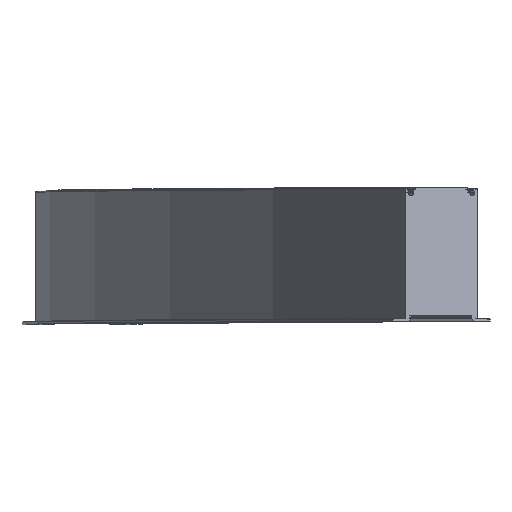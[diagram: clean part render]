
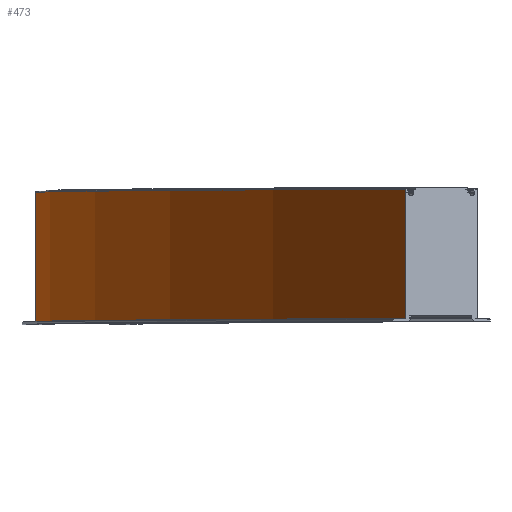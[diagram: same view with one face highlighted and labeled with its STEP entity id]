
A CAD part, top view. The second image highlights one B-rep face of the part: STEP entity #473.
In plain terms, the highlighted cylindrical face has radius 2923.5 mm (diameter 5847 mm), a partial arc.
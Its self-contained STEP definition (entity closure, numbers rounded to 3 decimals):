
#110 = CARTESIAN_POINT ( 'NONE',  ( -23.5, 1.8, 0. ) ) ;
#162 = AXIS2_PLACEMENT_3D ( 'NONE', #408, #850, #1435 ) ;
#183 = VERTEX_POINT ( 'NONE', #893 ) ;
#190 = VERTEX_POINT ( 'NONE', #879 ) ;
#247 = DIRECTION ( 'NONE',  ( 0., -1., 0. ) ) ;
#263 = CARTESIAN_POINT ( 'NONE',  ( 199.038, 1.8, 1118.775 ) ) ;
#408 = CARTESIAN_POINT ( 'NONE',  ( 2900., 1.8, 0. ) ) ;
#412 = DIRECTION ( 'NONE',  ( 0., -1., 0. ) ) ;
#473 = ADVANCED_FACE ( 'NONE', ( #540 ), #584, .T. ) ;
#532 = CARTESIAN_POINT ( 'NONE',  ( 2900., 0., 0. ) ) ;
#540 = FACE_OUTER_BOUND ( 'NONE', #1071, .T. ) ;
#560 = AXIS2_PLACEMENT_3D ( 'NONE', #1549, #1709, #1589 ) ;
#577 = ORIENTED_EDGE ( 'NONE', *, *, #954, .T. ) ;
#584 = CYLINDRICAL_SURFACE ( 'NONE', #744, 2923.5 ) ;
#701 = ORIENTED_EDGE ( 'NONE', *, *, #1160, .F. ) ;
#715 = VERTEX_POINT ( 'NONE', #1456 ) ;
#744 = AXIS2_PLACEMENT_3D ( 'NONE', #532, #1407, #1878 ) ;
#747 = CIRCLE ( 'NONE', #162, 2923.5 ) ;
#847 = VECTOR ( 'NONE', #412, 1000. ) ;
#850 = DIRECTION ( 'NONE',  ( 0., 1., 0. ) ) ;
#879 = CARTESIAN_POINT ( 'NONE',  ( 199.038, 1.8, 1118.775 ) ) ;
#893 = CARTESIAN_POINT ( 'NONE',  ( -23.5, 1.8, 0. ) ) ;
#906 = CIRCLE ( 'NONE', #560, 2923.5 ) ;
#954 = EDGE_CURVE ( 'NONE', #183, #190, #747, .T. ) ;
#955 = ORIENTED_EDGE ( 'NONE', *, *, #1493, .F. ) ;
#956 = LINE ( 'NONE', #110, #1235 ) ;
#958 = CARTESIAN_POINT ( 'NONE',  ( 199.038, 79.5, 1118.775 ) ) ;
#1010 = ORIENTED_EDGE ( 'NONE', *, *, #1380, .T. ) ;
#1049 = VERTEX_POINT ( 'NONE', #958 ) ;
#1071 = EDGE_LOOP ( 'NONE', ( #577, #955, #701, #1010 ) ) ;
#1160 = EDGE_CURVE ( 'NONE', #715, #1049, #906, .T. ) ;
#1235 = VECTOR ( 'NONE', #247, 1000. ) ;
#1380 = EDGE_CURVE ( 'NONE', #715, #183, #956, .T. ) ;
#1407 = DIRECTION ( 'NONE',  ( 0., 1., 0. ) ) ;
#1435 = DIRECTION ( 'NONE',  ( -1., 0., 0. ) ) ;
#1456 = CARTESIAN_POINT ( 'NONE',  ( -23.5, 79.5, 0. ) ) ;
#1493 = EDGE_CURVE ( 'NONE', #1049, #190, #1620, .T. ) ;
#1549 = CARTESIAN_POINT ( 'NONE',  ( 2900., 79.5, 0. ) ) ;
#1589 = DIRECTION ( 'NONE',  ( -1., 0., 0. ) ) ;
#1620 = LINE ( 'NONE', #263, #847 ) ;
#1709 = DIRECTION ( 'NONE',  ( 0., 1., 0. ) ) ;
#1878 = DIRECTION ( 'NONE',  ( 0., 0., 1. ) ) ;
